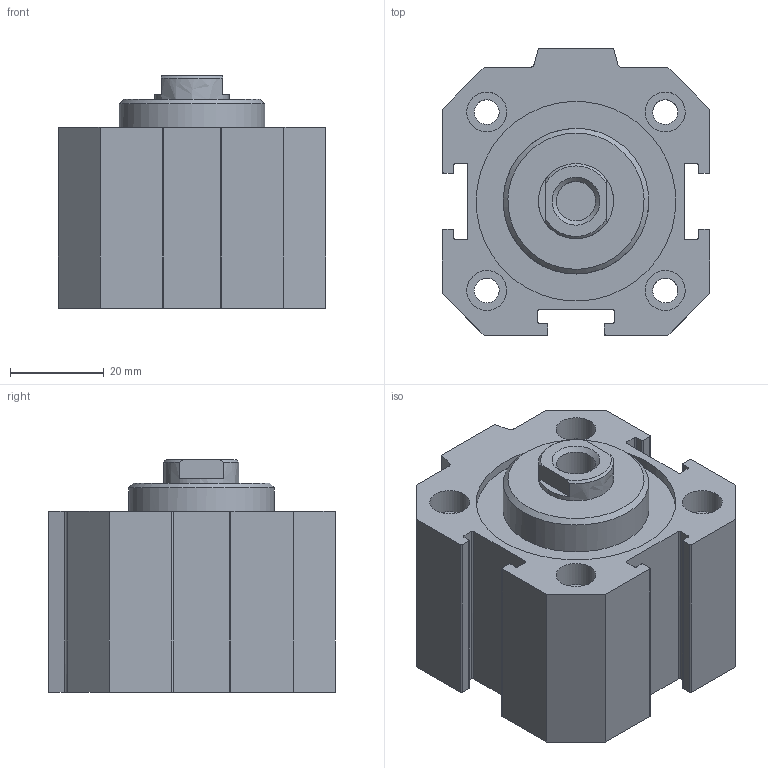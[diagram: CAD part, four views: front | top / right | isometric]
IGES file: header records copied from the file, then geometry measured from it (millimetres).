
Global section: file name: 1511_40_0000; native system: Autodesk Inventor 2014; preprocessor: unknown; author: A. Manieri; date: 20160824.120007; units: millimetre
Bounding box: 57 x 61 x 49.5 mm (x, y, z)
Volume: 108422.8 mm3; surface area: 31484.8 mm2
Topology: 2 solids, 2 shells, 117 faces, 300 edges, 205 vertices
Faces by surface type: bspline 117
